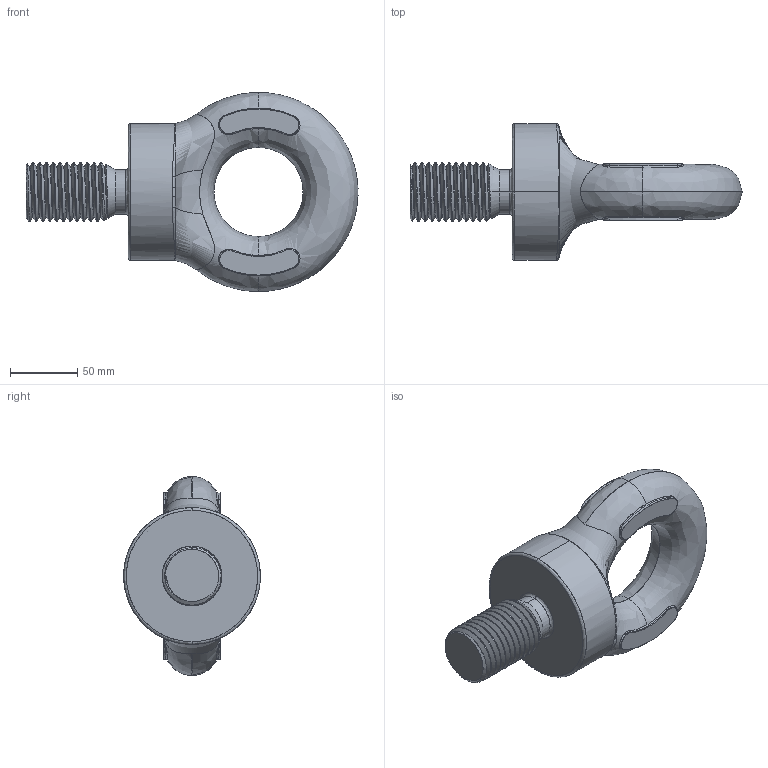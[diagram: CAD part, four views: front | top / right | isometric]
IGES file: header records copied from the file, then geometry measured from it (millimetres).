
Start section: SolidWorks IGES file using analytic representation for surfaces
Global section: file name: C:\Users\Brenton\Documents\Townley\Eye Bolts\EBW1750\EBW1750.IGS; native system: SolidWorks 2012; preprocessor: SolidWorks 2012; author: Brenton; date: 140224.151908; units: millimetre
Bounding box: 247.66 x 102 x 148.5 mm (x, y, z)
Surface area: 78485.6 mm2 (no closed solid volume)
Topology: 0 solids, 0 shells, 280 faces, 4680 edges, 4672 vertices
Faces by surface type: bspline 219, revolution 61
